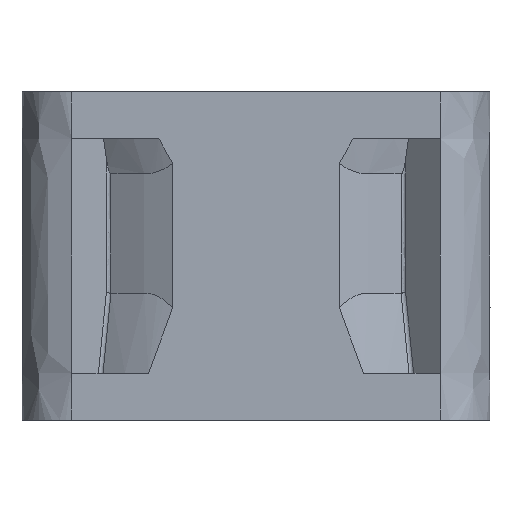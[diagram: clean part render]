
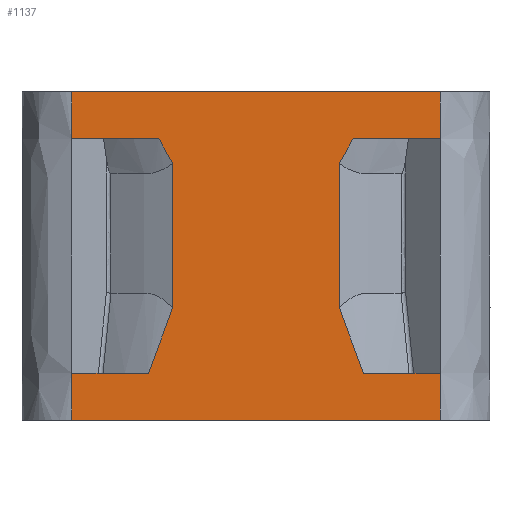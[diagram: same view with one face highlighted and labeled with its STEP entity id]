
A CAD part, front view. The second image highlights one B-rep face of the part: STEP entity #1137.
In plain terms, the highlighted free-form (B-spline) face has degree [1, 1] with [2, 2] control points.
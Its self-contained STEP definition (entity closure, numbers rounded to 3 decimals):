
#968=CARTESIAN_POINT('',(7.098,-19.95,9.387));
#969=VERTEX_POINT('',#968);
#970=CARTESIAN_POINT('',(9.168,-19.95,3.8));
#971=VERTEX_POINT('',#970);
#972=CARTESIAN_POINT('',(7.098,-19.95,9.387));
#973=CARTESIAN_POINT('',(7.862,-19.95,7.555));
#974=CARTESIAN_POINT('',(8.537,-19.95,5.685));
#975=CARTESIAN_POINT('',(9.168,-19.95,3.8));
#976=B_SPLINE_CURVE_WITH_KNOTS('',3,(#972,#973,#974,#975),.UNSPECIFIED.,.F.,.U.,(4,4),(0.,0.006),.UNSPECIFIED.);
#977=EDGE_CURVE('',#969,#971,#976,.T.);
#1020=CARTESIAN_POINT('',(21.039,-19.95,-7.239));
#1021=CARTESIAN_POINT('',(-21.039,-19.95,-7.239));
#1022=CARTESIAN_POINT('',(21.039,-19.95,34.839));
#1023=CARTESIAN_POINT('',(-21.039,-19.95,34.839));
#1024=B_SPLINE_SURFACE_WITH_KNOTS('',1,1,((#1020,#1021),(#1022,#1023)),.PLANE_SURF.,.F.,.F.,.U.,(2,2),(2,2),(0.,1.),(0.,1.),.UNSPECIFIED.);
#1025=CARTESIAN_POINT('',(-15.706,-19.95,23.8));
#1026=VERTEX_POINT('',#1025);
#1027=CARTESIAN_POINT('',(-8.28,-19.95,23.8));
#1028=VERTEX_POINT('',#1027);
#1029=CARTESIAN_POINT('',(-15.705,-19.95,23.8));
#1030=CARTESIAN_POINT('',(-8.28,-19.95,23.8));
#1031=B_SPLINE_CURVE_WITH_KNOTS('',1,(#1029,#1030),.POLYLINE_FORM.,.F.,.U.,(2,2),(0.,1.),.UNSPECIFIED.);
#1032=EDGE_CURVE('',#1026,#1028,#1031,.T.);
#1033=ORIENTED_EDGE('',*,*,#1032,.T.);
#1034=CARTESIAN_POINT('',(-7.098,-19.95,21.676));
#1035=VERTEX_POINT('',#1034);
#1036=CARTESIAN_POINT('',(-8.28,-19.95,23.8));
#1037=CARTESIAN_POINT('',(-7.906,-19.95,23.083));
#1038=CARTESIAN_POINT('',(-7.514,-19.95,22.373));
#1039=CARTESIAN_POINT('',(-7.098,-19.95,21.676));
#1040=B_SPLINE_CURVE_WITH_KNOTS('',3,(#1036,#1037,#1038,#1039),.UNSPECIFIED.,.F.,.U.,(4,4),(0.,0.002),.UNSPECIFIED.);
#1041=EDGE_CURVE('',#1028,#1035,#1040,.T.);
#1042=ORIENTED_EDGE('',*,*,#1041,.T.);
#1043=CARTESIAN_POINT('',(-7.098,-19.95,9.387));
#1044=VERTEX_POINT('',#1043);
#1045=CARTESIAN_POINT('',(-7.098,-19.95,21.676));
#1046=CARTESIAN_POINT('',(-7.098,-19.95,9.387));
#1047=B_SPLINE_CURVE_WITH_KNOTS('',1,(#1045,#1046),.POLYLINE_FORM.,.F.,.U.,(2,2),(0.,1.),.UNSPECIFIED.);
#1048=EDGE_CURVE('',#1035,#1044,#1047,.T.);
#1049=ORIENTED_EDGE('',*,*,#1048,.T.);
#1050=CARTESIAN_POINT('',(-9.168,-19.95,3.8));
#1051=VERTEX_POINT('',#1050);
#1052=CARTESIAN_POINT('',(-7.098,-19.95,9.387));
#1053=CARTESIAN_POINT('',(-7.862,-19.95,7.555));
#1054=CARTESIAN_POINT('',(-8.537,-19.95,5.685));
#1055=CARTESIAN_POINT('',(-9.168,-19.95,3.8));
#1056=B_SPLINE_CURVE_WITH_KNOTS('',3,(#1052,#1053,#1054,#1055),.UNSPECIFIED.,.F.,.U.,(4,4),(0.,0.006),.UNSPECIFIED.);
#1057=EDGE_CURVE('',#1044,#1051,#1056,.T.);
#1058=ORIENTED_EDGE('',*,*,#1057,.T.);
#1059=CARTESIAN_POINT('',(-15.706,-19.95,3.8));
#1060=VERTEX_POINT('',#1059);
#1061=CARTESIAN_POINT('',(-9.168,-19.95,3.8));
#1062=CARTESIAN_POINT('',(-15.705,-19.95,3.8));
#1063=B_SPLINE_CURVE_WITH_KNOTS('',1,(#1061,#1062),.POLYLINE_FORM.,.F.,.U.,(2,2),(0.,1.),.UNSPECIFIED.);
#1064=EDGE_CURVE('',#1051,#1060,#1063,.T.);
#1065=ORIENTED_EDGE('',*,*,#1064,.T.);
#1066=CARTESIAN_POINT('',(-15.705,-19.95,-0.2));
#1067=VERTEX_POINT('',#1066);
#1068=CARTESIAN_POINT('',(-15.705,-19.95,3.8));
#1069=CARTESIAN_POINT('',(-15.705,-19.95,-0.2));
#1070=B_SPLINE_CURVE_WITH_KNOTS('',1,(#1068,#1069),.POLYLINE_FORM.,.F.,.U.,(2,2),(0.,1.),.UNSPECIFIED.);
#1071=EDGE_CURVE('',#1060,#1067,#1070,.T.);
#1072=ORIENTED_EDGE('',*,*,#1071,.T.);
#1073=CARTESIAN_POINT('',(15.705,-19.95,-0.2));
#1074=VERTEX_POINT('',#1073);
#1075=CARTESIAN_POINT('',(-15.705,-19.95,-0.2));
#1076=CARTESIAN_POINT('',(15.705,-19.95,-0.2));
#1077=B_SPLINE_CURVE_WITH_KNOTS('',1,(#1075,#1076),.POLYLINE_FORM.,.F.,.U.,(2,2),(0.,1.),.UNSPECIFIED.);
#1078=EDGE_CURVE('',#1067,#1074,#1077,.T.);
#1079=ORIENTED_EDGE('',*,*,#1078,.T.);
#1080=CARTESIAN_POINT('',(15.706,-19.95,3.8));
#1081=VERTEX_POINT('',#1080);
#1082=CARTESIAN_POINT('',(15.705,-19.95,-0.2));
#1083=CARTESIAN_POINT('',(15.705,-19.95,3.8));
#1084=B_SPLINE_CURVE_WITH_KNOTS('',1,(#1082,#1083),.POLYLINE_FORM.,.F.,.U.,(2,2),(0.,1.),.UNSPECIFIED.);
#1085=EDGE_CURVE('',#1074,#1081,#1084,.T.);
#1086=ORIENTED_EDGE('',*,*,#1085,.T.);
#1087=CARTESIAN_POINT('',(15.705,-19.95,3.8));
#1088=CARTESIAN_POINT('',(9.168,-19.95,3.8));
#1089=B_SPLINE_CURVE_WITH_KNOTS('',1,(#1087,#1088),.POLYLINE_FORM.,.F.,.U.,(2,2),(0.,1.),.UNSPECIFIED.);
#1090=EDGE_CURVE('',#1081,#971,#1089,.T.);
#1091=ORIENTED_EDGE('',*,*,#1090,.T.);
#1092=ORIENTED_EDGE('',*,*,#977,.F.);
#1093=CARTESIAN_POINT('',(7.098,-19.95,21.676));
#1094=VERTEX_POINT('',#1093);
#1095=CARTESIAN_POINT('',(7.098,-19.95,9.387));
#1096=CARTESIAN_POINT('',(7.098,-19.95,21.676));
#1097=B_SPLINE_CURVE_WITH_KNOTS('',1,(#1095,#1096),.POLYLINE_FORM.,.F.,.U.,(2,2),(0.,1.),.UNSPECIFIED.);
#1098=EDGE_CURVE('',#969,#1094,#1097,.T.);
#1099=ORIENTED_EDGE('',*,*,#1098,.T.);
#1100=CARTESIAN_POINT('',(8.28,-19.95,23.8));
#1101=VERTEX_POINT('',#1100);
#1102=CARTESIAN_POINT('',(7.098,-19.95,21.676));
#1103=CARTESIAN_POINT('',(7.514,-19.95,22.373));
#1104=CARTESIAN_POINT('',(7.906,-19.95,23.083));
#1105=CARTESIAN_POINT('',(8.28,-19.95,23.8));
#1106=B_SPLINE_CURVE_WITH_KNOTS('',3,(#1102,#1103,#1104,#1105),.UNSPECIFIED.,.F.,.U.,(4,4),(0.,0.002),.UNSPECIFIED.);
#1107=EDGE_CURVE('',#1094,#1101,#1106,.T.);
#1108=ORIENTED_EDGE('',*,*,#1107,.T.);
#1109=CARTESIAN_POINT('',(15.706,-19.95,23.8));
#1110=VERTEX_POINT('',#1109);
#1111=CARTESIAN_POINT('',(8.28,-19.95,23.8));
#1112=CARTESIAN_POINT('',(15.705,-19.95,23.8));
#1113=B_SPLINE_CURVE_WITH_KNOTS('',1,(#1111,#1112),.POLYLINE_FORM.,.F.,.U.,(2,2),(0.,1.),.UNSPECIFIED.);
#1114=EDGE_CURVE('',#1101,#1110,#1113,.T.);
#1115=ORIENTED_EDGE('',*,*,#1114,.T.);
#1116=CARTESIAN_POINT('',(15.705,-19.95,27.8));
#1117=VERTEX_POINT('',#1116);
#1118=CARTESIAN_POINT('',(15.705,-19.95,23.8));
#1119=CARTESIAN_POINT('',(15.705,-19.95,27.8));
#1120=B_SPLINE_CURVE_WITH_KNOTS('',1,(#1118,#1119),.POLYLINE_FORM.,.F.,.U.,(2,2),(0.,1.),.UNSPECIFIED.);
#1121=EDGE_CURVE('',#1110,#1117,#1120,.T.);
#1122=ORIENTED_EDGE('',*,*,#1121,.T.);
#1123=CARTESIAN_POINT('',(-15.705,-19.95,27.8));
#1124=VERTEX_POINT('',#1123);
#1125=CARTESIAN_POINT('',(15.705,-19.95,27.8));
#1126=CARTESIAN_POINT('',(-15.705,-19.95,27.8));
#1127=B_SPLINE_CURVE_WITH_KNOTS('',1,(#1125,#1126),.POLYLINE_FORM.,.F.,.U.,(2,2),(0.,1.),.UNSPECIFIED.);
#1128=EDGE_CURVE('',#1117,#1124,#1127,.T.);
#1129=ORIENTED_EDGE('',*,*,#1128,.T.);
#1130=CARTESIAN_POINT('',(-15.705,-19.95,27.8));
#1131=CARTESIAN_POINT('',(-15.705,-19.95,23.8));
#1132=B_SPLINE_CURVE_WITH_KNOTS('',1,(#1130,#1131),.POLYLINE_FORM.,.F.,.U.,(2,2),(0.,1.),.UNSPECIFIED.);
#1133=EDGE_CURVE('',#1124,#1026,#1132,.T.);
#1134=ORIENTED_EDGE('',*,*,#1133,.T.);
#1135=EDGE_LOOP('',(#1033,#1042,#1049,#1058,#1065,#1072,#1079,#1086,#1091,#1092,#1099,#1108,#1115,#1122,#1129,#1134));
#1136=FACE_OUTER_BOUND('',#1135,.T.);
#1137=ADVANCED_FACE('',(#1136),#1024,.T.);
